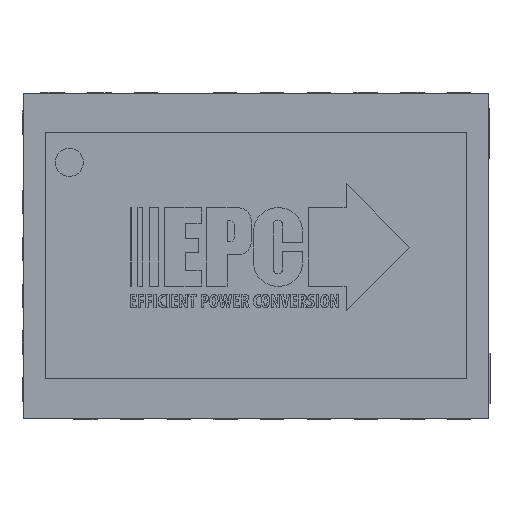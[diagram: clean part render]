
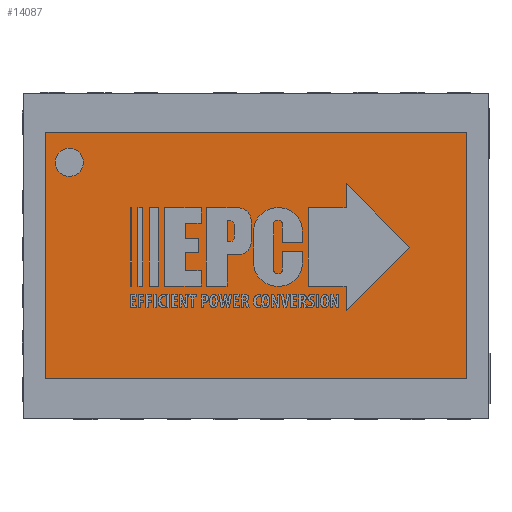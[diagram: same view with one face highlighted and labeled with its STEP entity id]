
A CAD part, top view. The second image highlights one B-rep face of the part: STEP entity #14087.
In plain terms, the highlighted planar face has unit normal (0, 0, 1).
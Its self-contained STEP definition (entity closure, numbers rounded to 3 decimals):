
#1260=FACE_OUTER_BOUND('',#2014,.T.);
#2014=EDGE_LOOP('',(#11524,#11525,#11526,#11527));
#3298=LINE('',#22878,#5050);
#3301=LINE('',#22884,#5053);
#3304=LINE('',#22890,#5056);
#3306=LINE('',#22893,#5058);
#5050=VECTOR('',#17601,1.);
#5053=VECTOR('',#17606,1.);
#5056=VECTOR('',#17611,1.);
#5058=VECTOR('',#17615,1.);
#6599=VERTEX_POINT('',#22872);
#6601=VERTEX_POINT('',#22876);
#6603=VERTEX_POINT('',#22882);
#6605=VERTEX_POINT('',#22888);
#8318=EDGE_CURVE('',#6599,#6601,#3298,.T.);
#8321=EDGE_CURVE('',#6601,#6603,#3301,.T.);
#8324=EDGE_CURVE('',#6603,#6605,#3304,.T.);
#8326=EDGE_CURVE('',#6605,#6599,#3306,.T.);
#11524=ORIENTED_EDGE('',*,*,#8318,.T.);
#11525=ORIENTED_EDGE('',*,*,#8321,.T.);
#11526=ORIENTED_EDGE('',*,*,#8324,.T.);
#11527=ORIENTED_EDGE('',*,*,#8326,.T.);
#13348=PLANE('',#15333);
#14087=ADVANCED_FACE('',(#1260),#13348,.F.);
#15333=AXIS2_PLACEMENT_3D('',#22895,#17618,#17619);
#17601=DIRECTION('',(1.,0.,0.));
#17606=DIRECTION('',(0.,1.,0.));
#17611=DIRECTION('',(-1.,0.,0.));
#17615=DIRECTION('',(0.,-1.,0.));
#17618=DIRECTION('center_axis',(0.,0.,-1.));
#17619=DIRECTION('ref_axis',(-1.,0.,0.));
#22872=CARTESIAN_POINT('',(-2.25,-1.315,0.45));
#22876=CARTESIAN_POINT('',(2.25,-1.315,0.45));
#22878=CARTESIAN_POINT('',(-2.25,-1.315,0.45));
#22882=CARTESIAN_POINT('',(2.25,1.315,0.45));
#22884=CARTESIAN_POINT('',(2.25,-1.315,0.45));
#22888=CARTESIAN_POINT('',(-2.25,1.315,0.45));
#22890=CARTESIAN_POINT('',(2.25,1.315,0.45));
#22893=CARTESIAN_POINT('',(-2.25,1.315,0.45));
#22895=CARTESIAN_POINT('Origin',(-2.25,-1.315,0.45));
